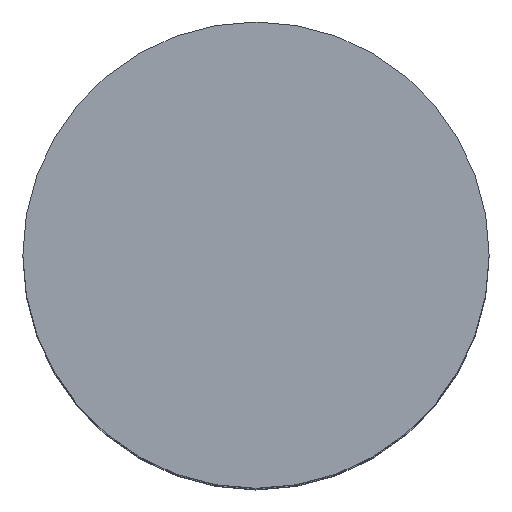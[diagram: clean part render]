
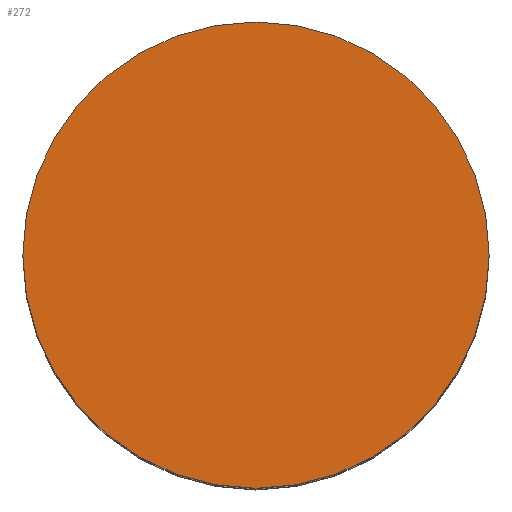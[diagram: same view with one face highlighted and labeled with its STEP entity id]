
A CAD part, top view. The second image highlights one B-rep face of the part: STEP entity #272.
In plain terms, the highlighted planar face has unit normal (0, 0, 1).
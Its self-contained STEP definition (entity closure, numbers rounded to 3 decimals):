
#213=CARTESIAN_POINT('',(-5.0,-0.0,17.7));
#214=VERTEX_POINT('',#213);
#222=CARTESIAN_POINT('',(5.0,-0.0,17.7));
#223=VERTEX_POINT('',#222);
#230=CARTESIAN_POINT('',(-0.0,-0.0,17.7));
#231=DIRECTION('',(0.0,0.0,-1.0));
#232=DIRECTION('',(1.0,-0.0,0.0));
#233=AXIS2_PLACEMENT_3D('',#230,#231,#232);
#234=CIRCLE('',#233,5.0);
#235=EDGE_CURVE('',#223,#214,#234,.T.);
#247=CARTESIAN_POINT('',(-0.0,-0.0,17.7));
#248=DIRECTION('',(0.0,0.0,-1.0));
#249=DIRECTION('',(1.0,-0.0,0.0));
#250=AXIS2_PLACEMENT_3D('',#247,#248,#249);
#251=CIRCLE('',#250,5.0);
#252=EDGE_CURVE('',#214,#223,#251,.T.);
#263=ORIENTED_EDGE('',*,*,#235,.F.);
#264=ORIENTED_EDGE('',*,*,#252,.F.);
#265=EDGE_LOOP('',(#263,#264));
#266=FACE_OUTER_BOUND('',#265,.T.);
#267=CARTESIAN_POINT('',(-10.0,-10.0,17.7));
#268=DIRECTION('',(-0.0,-0.0,1.0));
#269=DIRECTION('',(1.0,0.0,0.0));
#270=AXIS2_PLACEMENT_3D('',#267,#268,#269);
#271=PLANE('',#270);
#272=ADVANCED_FACE('no 175',(#266),#271,.T.);
